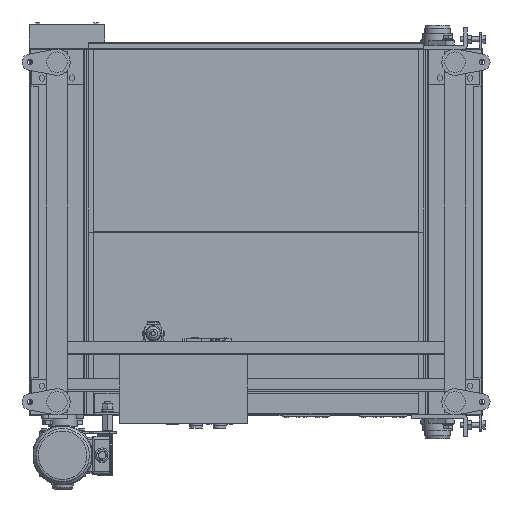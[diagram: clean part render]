
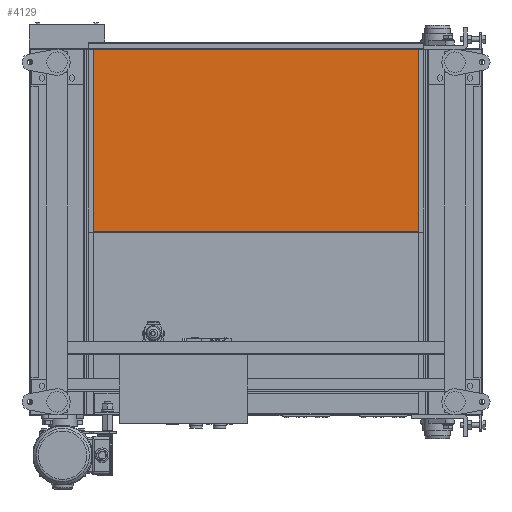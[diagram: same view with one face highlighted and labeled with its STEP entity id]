
A CAD part, front view. The second image highlights one B-rep face of the part: STEP entity #4129.
In plain terms, the highlighted planar face has unit normal (0, -1, 0).
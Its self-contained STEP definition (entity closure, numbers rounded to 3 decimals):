
#4129=ADVANCED_FACE('',(#13525),#13524,.F.);
#13524=PLANE('',#38810);
#13525=FACE_OUTER_BOUND('',#38811,.T.);
#38807=CARTESIAN_POINT('',(127.5,-165.,-10.));
#38808=DIRECTION('',(0.,1.,0.));
#38809=DIRECTION('',(0.,0.,1.));
#38810=AXIS2_PLACEMENT_3D('',#38807,#38808,#38809);
#38811=EDGE_LOOP('',(#55991,#55992,#55993,#55994));
#55991=ORIENTED_EDGE('',*,*,#69153,.F.);
#55992=ORIENTED_EDGE('',*,*,#69159,.F.);
#55993=ORIENTED_EDGE('',*,*,#69160,.F.);
#55994=ORIENTED_EDGE('',*,*,#69161,.F.);
#69153=EDGE_CURVE('',#90393,#90394,#90395,.T.);
#69159=EDGE_CURVE('',#90432,#90393,#90433,.T.);
#69160=EDGE_CURVE('',#90439,#90432,#90440,.T.);
#69161=EDGE_CURVE('',#90394,#90439,#90446,.T.);
#90393=VERTEX_POINT('',#135163);
#90394=VERTEX_POINT('',#135164);
#90395=LINE('',#135165,#135166);
#90432=VERTEX_POINT('',#135184);
#90433=LINE('',#135185,#135186);
#90439=VERTEX_POINT('',#135188);
#90440=LINE('',#135189,#135190);
#90446=LINE('',#135192,#135193);
#135163=CARTESIAN_POINT('',(137.5,-165.,0.));
#135164=CARTESIAN_POINT('',(137.5,-165.,428.2));
#135165=CARTESIAN_POINT('',(137.5,-165.,0.));
#135166=VECTOR('',#135167,428.2);
#135167=DIRECTION('',(0.,0.,1.));
#135184=CARTESIAN_POINT('',(922.5,-165.,0.));
#135185=CARTESIAN_POINT('',(922.5,-165.,0.));
#135186=VECTOR('',#135187,785.);
#135187=DIRECTION('',(-1.,0.,0.));
#135188=CARTESIAN_POINT('',(922.5,-165.,428.2));
#135189=CARTESIAN_POINT('',(922.5,-165.,428.2));
#135190=VECTOR('',#135191,428.2);
#135191=DIRECTION('',(0.,0.,-1.));
#135192=CARTESIAN_POINT('',(137.5,-165.,428.2));
#135193=VECTOR('',#135194,785.);
#135194=DIRECTION('',(1.,0.,0.));
